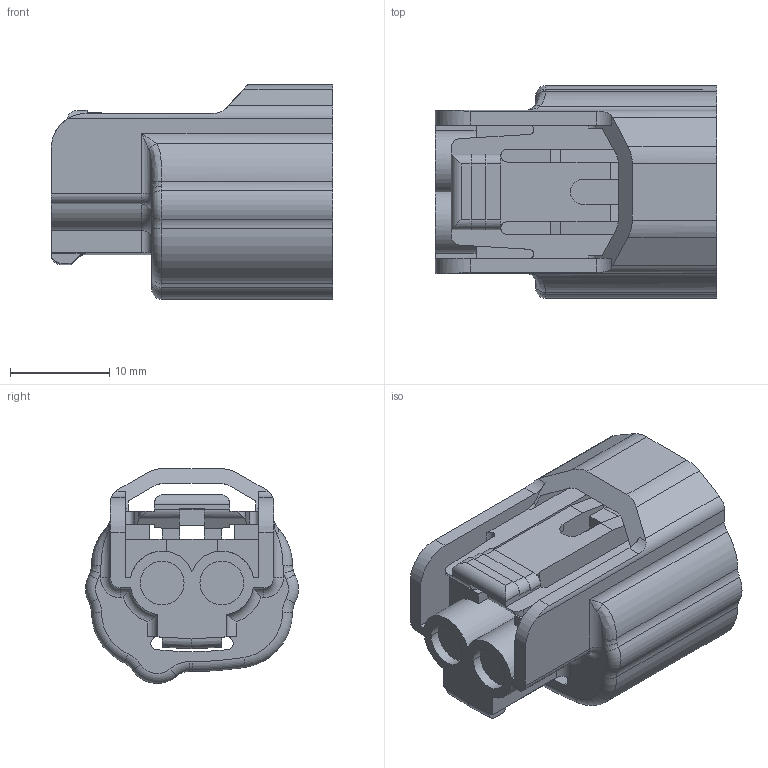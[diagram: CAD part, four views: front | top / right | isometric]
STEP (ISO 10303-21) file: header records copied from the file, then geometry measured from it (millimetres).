
FILE_DESCRIPTION(('CATIA V5 STEP Exchange'),'2;1');
FILE_NAME('N:\C-DAM_MyDesk\ENV\900093\6189-0552.stp','2013-06-03T04:51:02+00:00',('none'),('none'),'CATIA Version 5 Release 20 SP 4 (IN-10)','CATIA V5 STEP AP203','none');
FILE_SCHEMA(('CONFIG_CONTROL_DESIGN'));
Length unit declared in the file: millimetre
Products named in the file (1): 6189-0552
Bounding box: 28.3 x 21.4 x 21.6 mm (x, y, z)
Volume: 5317.6 mm3; surface area: 4730.1 mm2
Topology: 1 solids, 1 shells, 239 faces, 720 edges, 475 vertices
Faces by surface type: plane 111, cylinder 89, bspline 22, torus 17
Entity records: 9066 total; most frequent: CARTESIAN_POINT 2959, ORIENTED_EDGE 1436, DIRECTION 982, EDGE_CURVE 718, VERTEX_POINT 475, VECTOR 410, LINE 410, AXIS2_PLACEMENT_3D 388
